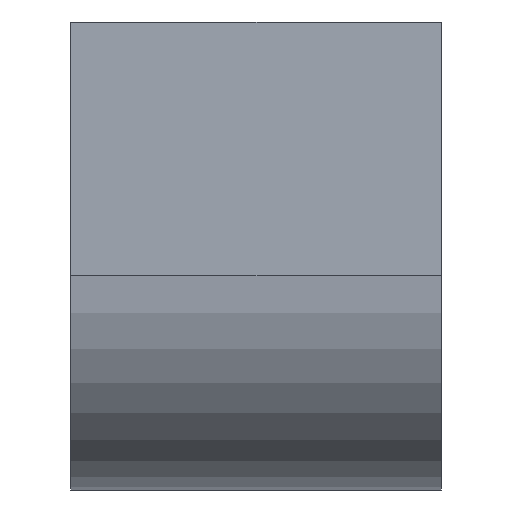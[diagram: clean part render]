
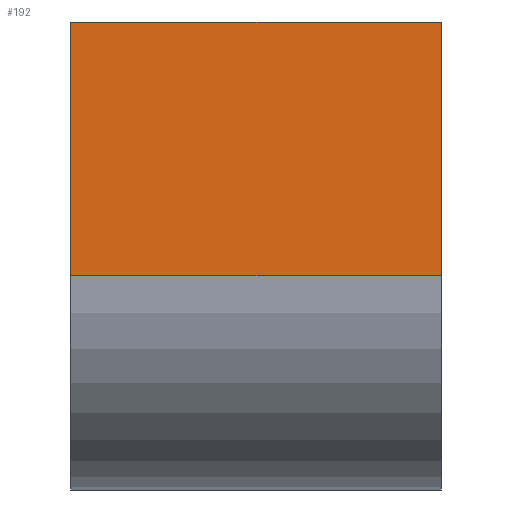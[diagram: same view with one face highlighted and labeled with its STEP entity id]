
A CAD part, left-side view. The second image highlights one B-rep face of the part: STEP entity #192.
In plain terms, the highlighted planar face has unit normal (-1, 0, 0).
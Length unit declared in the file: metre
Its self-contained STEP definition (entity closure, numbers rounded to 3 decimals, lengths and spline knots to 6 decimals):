
#28=ORIENTED_EDGE('',*,*,#80,.T.);
#29=ORIENTED_EDGE('',*,*,#81,.T.);
#30=ORIENTED_EDGE('',*,*,#82,.F.);
#31=ORIENTED_EDGE('',*,*,#79,.T.);
#79=EDGE_CURVE('',#102,#105,#123,.T.);
#80=EDGE_CURVE('',#105,#106,#124,.T.);
#81=EDGE_CURVE('',#106,#107,#125,.F.);
#82=EDGE_CURVE('',#102,#107,#126,.T.);
#102=VERTEX_POINT('',#295);
#105=VERTEX_POINT('',#300);
#106=VERTEX_POINT('',#304);
#107=VERTEX_POINT('',#306);
#123=LINE('',#301,#141);
#124=LINE('',#303,#142);
#125=LINE('',#305,#143);
#126=LINE('',#307,#144);
#141=VECTOR('',#241,1.);
#142=VECTOR('',#244,1.);
#143=VECTOR('',#245,1.);
#144=VECTOR('',#246,1.);
#157=EDGE_LOOP('',(#28,#29,#30,#31));
#171=FACE_BOUND('',#157,.T.);
#185=PLANE('',#216);
#192=ADVANCED_FACE('',(#171),#185,.F.);
#216=AXIS2_PLACEMENT_3D('',#302,#242,#243);
#241=DIRECTION('',(0.,1.,0.));
#242=DIRECTION('',(1.,0.,0.));
#243=DIRECTION('',(0.,0.,-1.));
#244=DIRECTION('',(0.,0.,-1.));
#245=DIRECTION('',(0.,1.,0.));
#246=DIRECTION('',(0.,0.,-1.));
#295=CARTESIAN_POINT('',(0.,-0.0095,0.));
#300=CARTESIAN_POINT('',(0.,0.,0.));
#301=CARTESIAN_POINT('',(0.,-0.0095,0.));
#302=CARTESIAN_POINT('',(0.,-0.0095,-0.006));
#303=CARTESIAN_POINT('',(0.,0.,-0.006));
#304=CARTESIAN_POINT('',(0.,0.,-0.0065));
#305=CARTESIAN_POINT('',(0.,-0.0095,-0.0065));
#306=CARTESIAN_POINT('',(0.,-0.0095,-0.0065));
#307=CARTESIAN_POINT('',(0.,-0.0095,-0.006));
